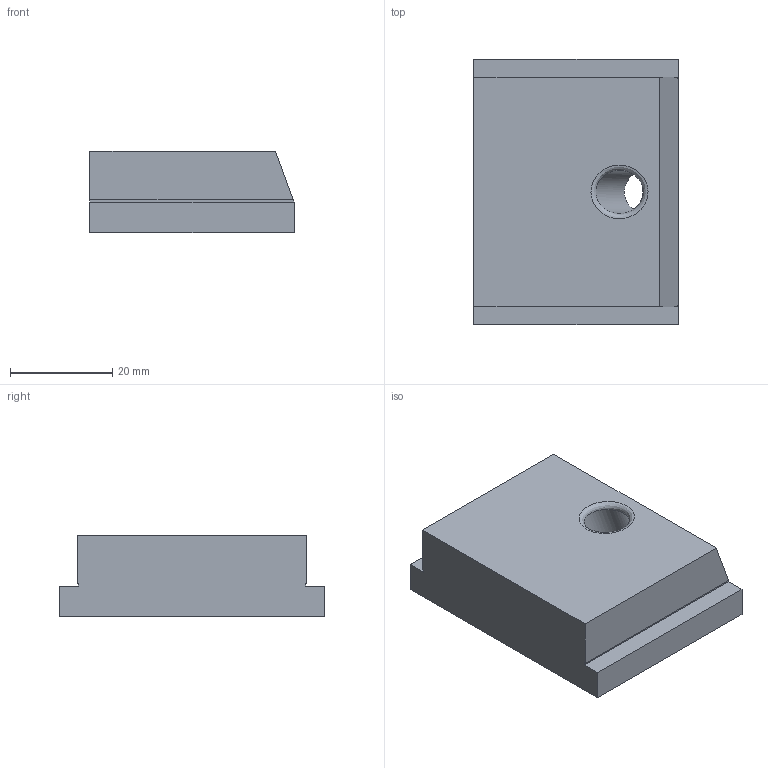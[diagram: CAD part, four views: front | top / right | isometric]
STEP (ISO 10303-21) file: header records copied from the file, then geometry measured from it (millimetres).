
FILE_DESCRIPTION (( 'STEP AP214' ), '1' );
FILE_NAME ('Schieber_-_H16 B45 L40.step', '2024-01-15T11:27:14', ( '' ), ( '' ), 'SwSTEP 2.0', 'SolidWorks 2020', '' );
FILE_SCHEMA (( 'AUTOMOTIVE_DESIGN' ));
Length unit declared in the file: millimetre
Products named in the file (1): Schieber_-_H16 B45 L40
Bounding box: 40 x 52 x 16 mm (x, y, z)
Volume: 28674.8 mm3; surface area: 7162.5 mm2
Topology: 1 solids, 1 shells, 207 faces, 549 edges, 365 vertices
Faces by surface type: plane 130, bspline 76, cylinder 1
Full cylindrical faces by diameter (mm): 8.5 x1
Entity records: 10275 total; most frequent: CARTESIAN_POINT 5626, ORIENTED_EDGE 1094, DIRECTION 658, EDGE_CURVE 547, LINE 394, VECTOR 394, VERTEX_POINT 365, EDGE_LOOP 232
